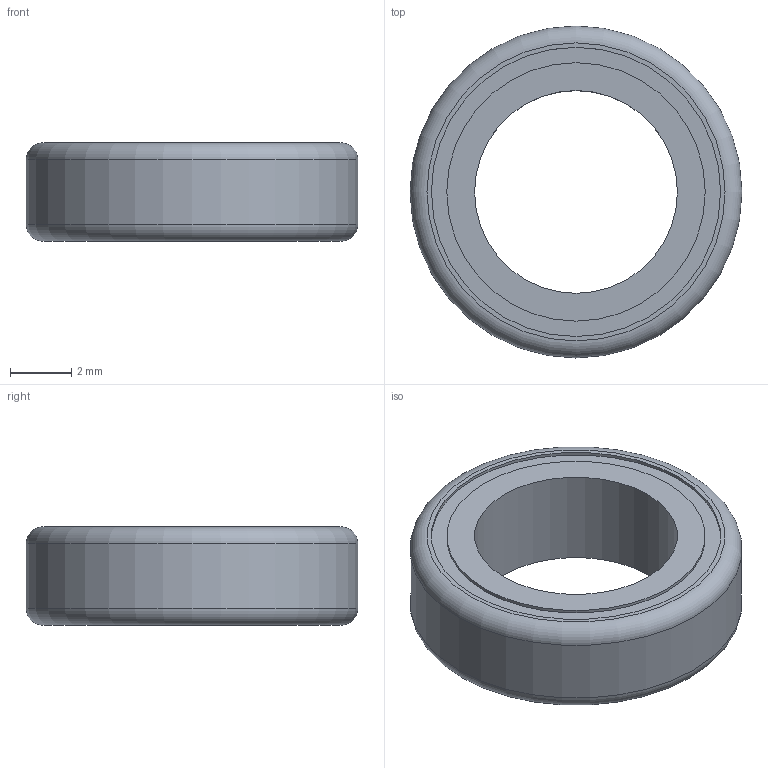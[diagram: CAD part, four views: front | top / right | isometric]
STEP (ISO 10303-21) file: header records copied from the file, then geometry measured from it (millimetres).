
FILE_DESCRIPTION(('Open CASCADE Model'),'2;1');
FILE_NAME('Open CASCADE Shape Model','2026-10-09T16:33:00',('Author'),( 'Open CASCADE'),'Open CASCADE STEP processor 8.0','build123d', 'Unknown');
FILE_SCHEMA(('AUTOMOTIVE_DESIGN { 1 0 10303 214 1 1 1 1 }'));
Length unit declared in the file: millimetre
Products named in the file (1): COMPOUND
Bounding box: 10.8 x 10.8 x 3.2 mm (x, y, z)
Volume: 178 mm3; surface area: 279 mm2
Topology: 1 solids, 1 shells, 10 faces, 16 edges, 10 vertices
Faces by surface type: cylinder 4, plane 4, torus 2
Full cylindrical faces by diameter (mm): 6.6 x1, 8.41 x1, 9.41 x1, 10.8 x1
Entity records: 458 total; most frequent: DIRECTION 82, CARTESIAN_POINT 69, ORIENTED_EDGE 32, PCURVE 32, DEFINITIONAL_REPRESENTATION 32, LINE 28, VECTOR 28, AXIS2_PLACEMENT_3D 23
